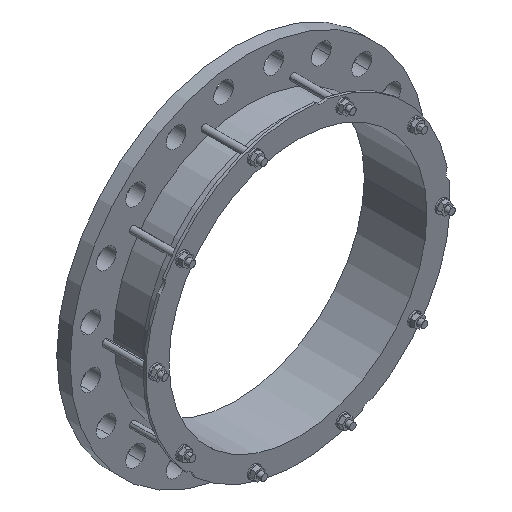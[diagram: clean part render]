
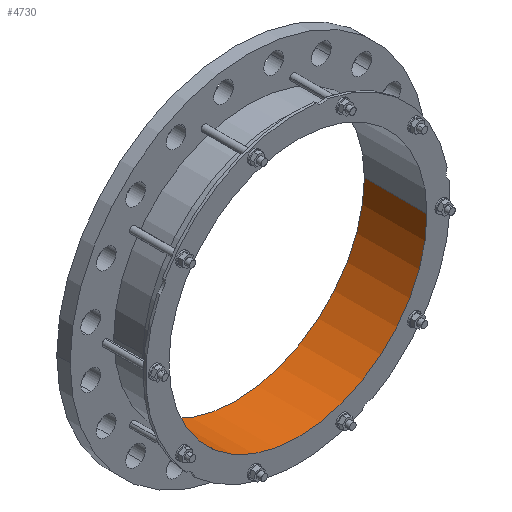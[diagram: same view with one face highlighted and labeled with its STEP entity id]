
A CAD part, isometric view. The second image highlights one B-rep face of the part: STEP entity #4730.
In plain terms, the highlighted cylindrical face has radius 242 mm (diameter 484 mm), a partial arc.
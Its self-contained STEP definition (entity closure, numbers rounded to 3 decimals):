
#7=CARTESIAN_POINT('',(0.,25.,0.));
#8=DIRECTION('',(0.,1.,0.));
#9=DIRECTION('',(1.,0.,0.));
#10=AXIS2_PLACEMENT_3D('',#7,#8,#9);
#1611=CARTESIAN_POINT('',(0.,-92.452,0.));
#1612=DIRECTION('',(0.,1.,0.));
#1613=DIRECTION('',(1.,0.,0.));
#1614=AXIS2_PLACEMENT_3D('',#1611,#1612,#1613);
#1616=DIRECTION('',(0.,1.,0.));
#1617=VECTOR('',#1616,117.452);
#1618=CARTESIAN_POINT('',(242.,-92.452,0.));
#1619=LINE('',#1618,#1617);
#1620=DIRECTION('',(0.,1.,0.));
#1621=VECTOR('',#1620,117.452);
#1622=CARTESIAN_POINT('',(-242.,-92.452,0.));
#1623=LINE('',#1622,#1621);
#3146=CARTESIAN_POINT('',(242.,-92.452,0.));
#3147=CARTESIAN_POINT('',(242.,25.,0.));
#3148=VERTEX_POINT('',#3146);
#3149=VERTEX_POINT('',#3147);
#3154=CARTESIAN_POINT('',(-242.,-92.452,0.));
#3155=CARTESIAN_POINT('',(-242.,25.,0.));
#3156=VERTEX_POINT('',#3154);
#3157=VERTEX_POINT('',#3155);
#4717=CARTESIAN_POINT('',(0.,-98.325,0.));
#4718=DIRECTION('',(0.,1.,0.));
#4719=DIRECTION('',(-1.,0.,0.));
#4720=AXIS2_PLACEMENT_3D('',#4717,#4718,#4719);
#4721=CYLINDRICAL_SURFACE('',#4720,242.);
#4723=ORIENTED_EDGE('',*,*,#4722,.F.);
#4724=ORIENTED_EDGE('',*,*,#4710,.T.);
#4726=ORIENTED_EDGE('',*,*,#4725,.T.);
#4727=ORIENTED_EDGE('',*,*,#3889,.F.);
#4728=EDGE_LOOP('',(#4723,#4724,#4726,#4727));
#4729=FACE_OUTER_BOUND('',#4728,.F.);
#4730=ADVANCED_FACE('',(#4729),#4721,.F.);
#11=CIRCLE('',#10,242.);
#1615=CIRCLE('',#1614,242.);
#3889=EDGE_CURVE('',#3149,#3157,#11,.T.);
#4710=EDGE_CURVE('',#3148,#3156,#1615,.T.);
#4722=EDGE_CURVE('',#3148,#3149,#1619,.T.);
#4725=EDGE_CURVE('',#3156,#3157,#1623,.T.);
